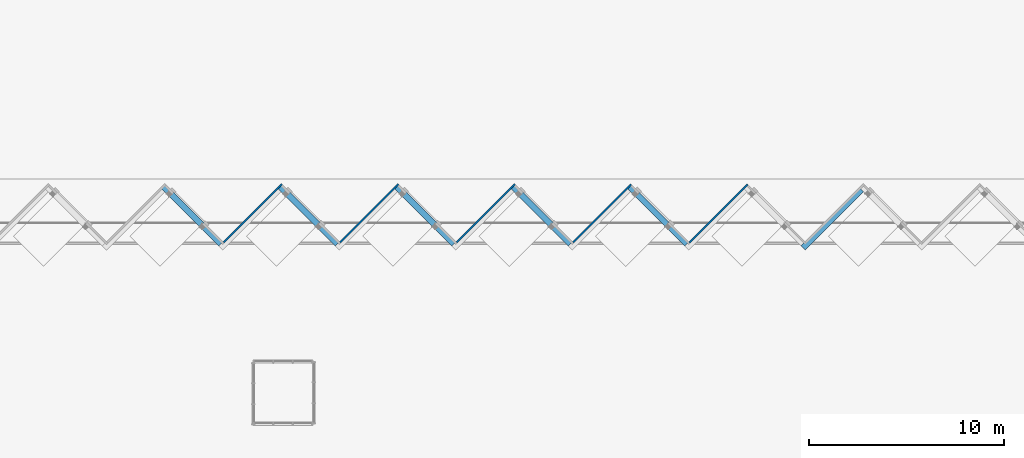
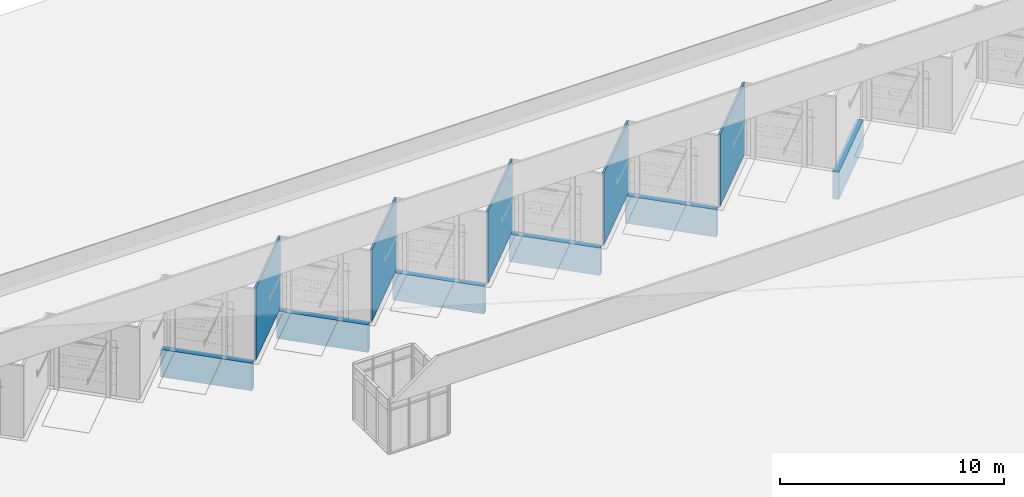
# One storey, part 47 of 64: 11 walls.
"""IFC2X3 building model written with IfcOpenShell, lengths in millimetres."""

from ifc_helpers import new_model, entity, si_unit, converted_unit, derived_unit, direction, frame, frame_2d, origin, place, context, subcontext, project, spatial, rectangle, extrude, material, layer, layer_set, layer_usage, type_object, element, save


model = new_model("IFC2X3")

# Units and contexts
model_context = context("Model", 3, precision=0.01, world=origin(), true_north=direction((4.05803320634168e-15, -1.0)))
body_context = subcontext(model_context, "Body", "Model", "MODEL_VIEW")
ifc_project = project(units=[si_unit("LENGTHUNIT", "METRE", prefix="MILLI"), si_unit("AREAUNIT", "SQUARE_METRE"), si_unit("VOLUMEUNIT", "CUBIC_METRE"), converted_unit("PLANEANGLEUNIT", "DEGREE", entity("IfcRatioMeasure", 0.0174532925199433), si_unit("PLANEANGLEUNIT", "RADIAN"), dimensions=[0, 0, 0, 0, 0, 0, 0]), si_unit("MASSUNIT", "GRAM", prefix="KILO"), derived_unit("MASSDENSITYUNIT", [(si_unit("MASSUNIT", "GRAM", prefix="KILO"), 1), (si_unit("LENGTHUNIT", "METRE"), -3)]), si_unit("TIMEUNIT", "SECOND"), si_unit("FREQUENCYUNIT", "HERTZ"), si_unit("THERMODYNAMICTEMPERATUREUNIT", "DEGREE_CELSIUS"), derived_unit("THERMALTRANSMITTANCEUNIT", [(si_unit("MASSUNIT", "GRAM", prefix="KILO"), 1), (si_unit("THERMODYNAMICTEMPERATUREUNIT", "KELVIN"), -1), (si_unit("TIMEUNIT", "SECOND"), -3)]), derived_unit("VOLUMETRICFLOWRATEUNIT", [(si_unit("LENGTHUNIT", "METRE"), 3), (si_unit("TIMEUNIT", "SECOND"), -1)]), si_unit("ELECTRICCURRENTUNIT", "AMPERE"), si_unit("ELECTRICVOLTAGEUNIT", "VOLT"), si_unit("POWERUNIT", "WATT"), si_unit("FORCEUNIT", "NEWTON", prefix="KILO"), si_unit("ILLUMINANCEUNIT", "LUX"), si_unit("LUMINOUSFLUXUNIT", "LUMEN"), si_unit("LUMINOUSINTENSITYUNIT", "CANDELA"), derived_unit("USERDEFINED", [(si_unit("MASSUNIT", "GRAM", prefix="KILO"), -1), (si_unit("LENGTHUNIT", "METRE"), -2), (si_unit("TIMEUNIT", "SECOND"), 3), (si_unit("LUMINOUSFLUXUNIT", "LUMEN"), 1)]), derived_unit("LINEARVELOCITYUNIT", [(si_unit("LENGTHUNIT", "METRE"), 1), (si_unit("TIMEUNIT", "SECOND"), -1)]), si_unit("PRESSUREUNIT", "PASCAL"), derived_unit("USERDEFINED", [(si_unit("LENGTHUNIT", "METRE"), -2), (si_unit("MASSUNIT", "GRAM", prefix="KILO"), 1), (si_unit("TIMEUNIT", "SECOND"), -2)])], contexts=[model_context])

# Site, building, storey
site_placement = place(None, frame((927466.849349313, 583801.882853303, 0.0), z_axis=(0.0, 0.0, 1.0), x_axis=(-1.0, 0.0, 0.0)))
site = spatial("IfcSite", under=ifc_project, at=site_placement, Name="Surface", CompositionType="ELEMENT")
building_placement = place(site_placement, origin())
building = spatial("IfcBuilding", under=site, at=building_placement, CompositionType="ELEMENT")
storey_placement = place(building_placement, frame((0.0, 0.0, 44170.0)))
storey = spatial("IfcBuildingStorey", under=building, at=storey_placement, Name="Ground FFL", CompositionType="ELEMENT", Elevation=44170.0)

# Walls
ifc_material_1 = material(Name="Isopenal")
ifc_layer_1 = layer(ifc_material_1, 100.0)
ifc_layer_set_1 = layer_set([ifc_layer_1], Name="Basic Wall:Isopanel")
ifc_layer_usage_1 = layer_usage(ifc_layer_set_1, "AXIS2", "POSITIVE", -50.0)
wall_type_1 = type_object("IfcWallType", Name="Basic Wall:Isopanel", PredefinedType="STANDARD", material=ifc_layer_set_1)
wall_1_placement = place(storey_placement, frame((-90062.4687535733, -33638.9669325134, 0.0), z_axis=(0.0, 0.0, 1.0), x_axis=(0.707106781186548, 0.707106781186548, 0.0)))
element("IfcWallStandardCase", 1, at=wall_1_placement, inside=storey, type_object=wall_type_1, material=ifc_layer_usage_1, Name="Basic Wall:Isopanel", ObjectType="Basic Wall:Isopanel", context=body_context, shape_type="SweptSolid", body=[
    extrude(rectangle(XDim=4232.26267936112, YDim=99.9999999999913, at=frame_2d((2116.13133968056, 3.5527136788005e-15), x_axis=(-1.0, 0.0))), origin(), (0.0, 0.0, 1.0), 3910.35154955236),
])
ifc_layer_usage_2 = layer_usage(ifc_layer_set_1, "AXIS2", "POSITIVE", -50.0)
wall_2_placement = place(storey_placement, frame((-96047.7920342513, -33638.9669325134, 0.0), z_axis=(0.0, 0.0, 1.0), x_axis=(0.707106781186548, 0.707106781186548, 0.0)))
element("IfcWallStandardCase", 2, at=wall_2_placement, inside=storey, type_object=wall_type_1, material=ifc_layer_usage_2, Name="Basic Wall:Isopanel", ObjectType="Basic Wall:Isopanel", context=body_context, shape_type="SweptSolid", body=[
    extrude(rectangle(XDim=4232.26267936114, YDim=99.9999999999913, at=frame_2d((2116.13133968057, 3.5527136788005e-15), x_axis=(-1.0, 0.0))), origin(), (0.0, 0.0, 1.0), 3910.35154955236),
])
ifc_layer_usage_3 = layer_usage(ifc_layer_set_1, "AXIS2", "POSITIVE", -50.0)
wall_3_placement = place(storey_placement, frame((-102033.115314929, -33638.9669325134, 0.0), z_axis=(0.0, 0.0, 1.0), x_axis=(0.707106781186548, 0.707106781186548, 0.0)))
element("IfcWallStandardCase", 3, at=wall_3_placement, inside=storey, type_object=wall_type_1, material=ifc_layer_usage_3, Name="Basic Wall:Isopanel", ObjectType="Basic Wall:Isopanel", context=body_context, shape_type="SweptSolid", body=[
    extrude(rectangle(XDim=4232.26267936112, YDim=99.9999999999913, at=frame_2d((2116.13133968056, 3.5527136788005e-15), x_axis=(-1.0, 0.0))), origin(), (0.0, 0.0, 1.0), 3910.35154955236),
])
ifc_layer_usage_4 = layer_usage(ifc_layer_set_1, "AXIS2", "POSITIVE", -50.0)
wall_4_placement = place(storey_placement, frame((-108018.438595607, -33638.9669325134, 0.0), z_axis=(0.0, 0.0, 1.0), x_axis=(0.707106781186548, 0.707106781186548, 0.0)))
element("IfcWallStandardCase", 4, at=wall_4_placement, inside=storey, type_object=wall_type_1, material=ifc_layer_usage_4, Name="Basic Wall:Isopanel", ObjectType="Basic Wall:Isopanel", context=body_context, shape_type="SweptSolid", body=[
    extrude(rectangle(XDim=4232.26267936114, YDim=99.9999999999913, at=frame_2d((2116.13133968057, 3.5527136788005e-15), x_axis=(-1.0, 0.0))), origin(), (0.0, 0.0, 1.0), 3910.35154955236),
])
ifc_layer_usage_5 = layer_usage(ifc_layer_set_1, "AXIS2", "POSITIVE", -50.0)
wall_5_placement = place(storey_placement, frame((-114003.761876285, -33638.9669325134, 0.0), z_axis=(0.0, 0.0, 1.0), x_axis=(0.707106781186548, 0.707106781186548, 0.0)))
element("IfcWallStandardCase", 5, at=wall_5_placement, inside=storey, type_object=wall_type_1, material=ifc_layer_usage_5, Name="Basic Wall:Isopanel", ObjectType="Basic Wall:Isopanel", context=body_context, shape_type="SweptSolid", body=[
    extrude(rectangle(XDim=4232.26267936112, YDim=99.9999999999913, at=frame_2d((2116.13133968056, 3.5527136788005e-15), x_axis=(-1.0, 0.0))), origin(), (0.0, 0.0, 1.0), 3910.35154955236),
])
ifc_material_2 = material(Name="conc bund")
ifc_layer_2 = layer(ifc_material_2, 300.0)
ifc_layer_set_2 = layer_set([ifc_layer_2], Name="Basic Wall:300 bund wall")
ifc_layer_usage_6 = layer_usage(ifc_layer_set_2, "AXIS2", "POSITIVE", -150.0)
wall_type_2 = type_object("IfcWallType", Name="Basic Wall:300 bund wall", PredefinedType="STANDARD", material=ifc_layer_set_2)
wall_6_placement = place(storey_placement, frame((-119847.663800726, -33356.1242200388, -1500.0), z_axis=(0.0, 0.0, 1.0), x_axis=(0.70710678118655, 0.707106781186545, 0.0)))
element("IfcWallStandardCase", 6, at=wall_6_placement, inside=storey, type_object=wall_type_2, material=ifc_layer_usage_6, Name="Basic Wall:300 bund wall", ObjectType="Basic Wall:300 bund wall", context=body_context, shape_type="SweptSolid", body=[
    extrude(rectangle(XDim=4232.26267936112, YDim=300.000000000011, at=frame_2d((2116.13133968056, 6.66489086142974e-12), x_axis=(-1.0, 0.0))), origin(), (0.0, 0.0, 1.0), 1500.00000000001),
])
ifc_layer_usage_7 = layer_usage(ifc_layer_set_2, "AXIS2", "NEGATIVE", 150.0)
wall_7_placement = place(storey_placement, frame((-107877.01723937, -33568.2562543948, -1500.0), z_axis=(0.0, 0.0, 1.0), x_axis=(-0.70710678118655, 0.707106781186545, 0.0)))
element("IfcWallStandardCase", 7, at=wall_7_placement, inside=storey, type_object=wall_type_2, material=ifc_layer_usage_7, Name="Basic Wall:300 bund wall", ObjectType="Basic Wall:300 bund wall", context=body_context, shape_type="SweptSolid", body=[
    extrude(rectangle(XDim=4232.26267936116, YDim=299.999999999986, at=frame_2d((2116.13133968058, -3.62376795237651e-12), x_axis=(-1.0, 0.0))), origin(), (0.0, 0.0, 1.0), 1500.00000000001),
])
ifc_layer_usage_8 = layer_usage(ifc_layer_set_2, "AXIS2", "NEGATIVE", 150.0)
wall_8_placement = place(storey_placement, frame((-101891.693958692, -33568.2562543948, -1500.0), z_axis=(0.0, 0.0, 1.0), x_axis=(-0.70710678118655, 0.707106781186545, 0.0)))
element("IfcWallStandardCase", 8, at=wall_8_placement, inside=storey, type_object=wall_type_2, material=ifc_layer_usage_8, Name="Basic Wall:300 bund wall", ObjectType="Basic Wall:300 bund wall", context=body_context, shape_type="SweptSolid", body=[
    extrude(rectangle(XDim=4232.26267936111, YDim=299.999999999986, at=frame_2d((2116.13133968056, 2.62900812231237e-12), x_axis=(-1.0, 0.0))), origin(), (0.0, 0.0, 1.0), 1500.00000000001),
])
ifc_layer_usage_9 = layer_usage(ifc_layer_set_2, "AXIS2", "NEGATIVE", 150.0)
wall_9_placement = place(storey_placement, frame((-95906.3706780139, -33568.2562543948, -1500.0), z_axis=(0.0, 0.0, 1.0), x_axis=(-0.70710678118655, 0.707106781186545, 0.0)))
element("IfcWallStandardCase", 9, at=wall_9_placement, inside=storey, type_object=wall_type_2, material=ifc_layer_usage_9, Name="Basic Wall:300 bund wall", ObjectType="Basic Wall:300 bund wall", context=body_context, shape_type="SweptSolid", body=[
    extrude(rectangle(XDim=4232.26267936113, YDim=299.999999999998, at=frame_2d((2116.13133968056, -6.60804744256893e-12), x_axis=(-1.0, 0.0))), origin(), (0.0, 0.0, 1.0), 1500.00000000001),
])
ifc_layer_usage_10 = layer_usage(ifc_layer_set_2, "AXIS2", "NEGATIVE", 150.0)
wall_10_placement = place(storey_placement, frame((-89921.0473973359, -33568.2562543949, -1500.0), z_axis=(0.0, 0.0, 1.0), x_axis=(-0.70710678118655, 0.707106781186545, 0.0)))
element("IfcWallStandardCase", 10, at=wall_10_placement, inside=storey, type_object=wall_type_2, material=ifc_layer_usage_10, Name="Basic Wall:300 bund wall", ObjectType="Basic Wall:300 bund wall", context=body_context, shape_type="SweptSolid", body=[
    extrude(rectangle(XDim=4232.2626793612, YDim=299.999999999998, at=frame_2d((2116.1313396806, 2.50111042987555e-12), x_axis=(-1.0, 0.0))), origin(), (0.0, 0.0, 1.0), 1500.00000000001),
])
ifc_layer_usage_11 = layer_usage(ifc_layer_set_2, "AXIS2", "NEGATIVE", 150.0)
wall_11_placement = place(storey_placement, frame((-83935.7241166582, -33568.2562543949, -1500.0), z_axis=(0.0, 0.0, 1.0), x_axis=(-0.70710678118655, 0.707106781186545, 0.0)))
element("IfcWallStandardCase", 11, at=wall_11_placement, inside=storey, type_object=wall_type_2, material=ifc_layer_usage_11, Name="Basic Wall:300 bund wall", ObjectType="Basic Wall:300 bund wall", context=body_context, shape_type="SweptSolid", body=[
    extrude(rectangle(XDim=4232.26267936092, YDim=299.999999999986, at=frame_2d((2116.13133968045, -9.72022462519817e-12), x_axis=(-1.0, 0.0))), origin(), (0.0, 0.0, 1.0), 1500.00000000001),
])

save(model, "model.ifc")
